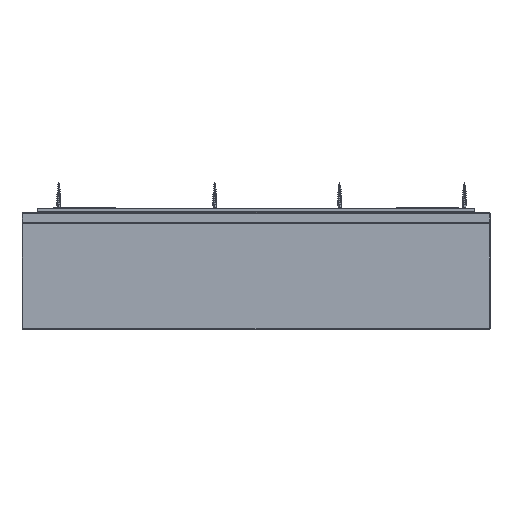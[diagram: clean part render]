
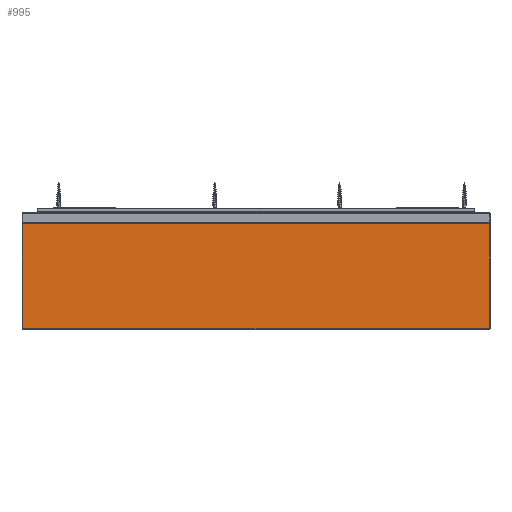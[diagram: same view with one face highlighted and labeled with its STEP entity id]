
A CAD part, top view. The second image highlights one B-rep face of the part: STEP entity #995.
In plain terms, the highlighted planar face has unit normal (0, 0, 1).
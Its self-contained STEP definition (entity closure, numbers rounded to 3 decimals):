
#995=ADVANCED_FACE('',(#1629),#10379,.T.);
#1629=FACE_OUTER_BOUND('',#2263,.T.);
#2263=EDGE_LOOP('',(#2986,#2987,#2988,#2989));
#2986=ORIENTED_EDGE('',*,*,#6400,.T.);
#2987=ORIENTED_EDGE('',*,*,#6399,.T.);
#2988=ORIENTED_EDGE('',*,*,#6401,.T.);
#2989=ORIENTED_EDGE('',*,*,#6398,.F.);
#6398=EDGE_CURVE('',#9268,#9269,#8104,.T.);
#6399=EDGE_CURVE('',#9270,#9271,#8105,.T.);
#6400=EDGE_CURVE('',#9268,#9270,#8106,.T.);
#6401=EDGE_CURVE('',#9271,#9269,#8107,.T.);
#8104=B_SPLINE_CURVE_WITH_KNOTS('',1,(#11780,#11781),.UNSPECIFIED.,.F.,
 .F.,(2,2),(1.,749.),.UNSPECIFIED.);
#8105=B_SPLINE_CURVE_WITH_KNOTS('',1,(#11782,#11783),.UNSPECIFIED.,.F.,
 .F.,(2,2),(1.,749.),.UNSPECIFIED.);
#8106=B_SPLINE_CURVE_WITH_KNOTS('',1,(#11784,#11785),.UNSPECIFIED.,.F.,
 .F.,(2,2),(1.,169.),.UNSPECIFIED.);
#8107=B_SPLINE_CURVE_WITH_KNOTS('',1,(#11786,#11787),.UNSPECIFIED.,.F.,
 .F.,(2,2),(1.,169.),.UNSPECIFIED.);
#9268=VERTEX_POINT('',#11744);
#9269=VERTEX_POINT('',#11745);
#9270=VERTEX_POINT('',#11746);
#9271=VERTEX_POINT('',#11747);
#10379=PLANE('',#10779);
#10779=AXIS2_PLACEMENT_3D('',#11709,#11244,$);
#11244=DIRECTION('',(0.,0.,1.));
#11709=CARTESIAN_POINT('',(-447.158,-130.406,937.358));
#11744=CARTESIAN_POINT('',(376.842,-112.406,937.358));
#11745=CARTESIAN_POINT('',(-371.158,-112.406,937.358));
#11746=CARTESIAN_POINT('',(376.842,55.594,937.358));
#11747=CARTESIAN_POINT('',(-371.158,55.594,937.358));
#11780=CARTESIAN_POINT('',(376.842,-112.406,937.358));
#11781=CARTESIAN_POINT('',(-371.158,-112.406,937.358));
#11782=CARTESIAN_POINT('',(376.842,55.594,937.358));
#11783=CARTESIAN_POINT('',(-371.158,55.594,937.358));
#11784=CARTESIAN_POINT('',(376.842,-112.406,937.358));
#11785=CARTESIAN_POINT('',(376.842,55.594,937.358));
#11786=CARTESIAN_POINT('',(-371.158,55.594,937.358));
#11787=CARTESIAN_POINT('',(-371.158,-112.406,937.358));
